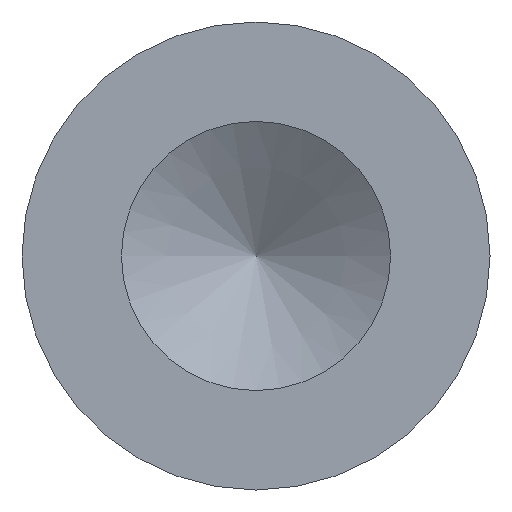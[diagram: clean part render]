
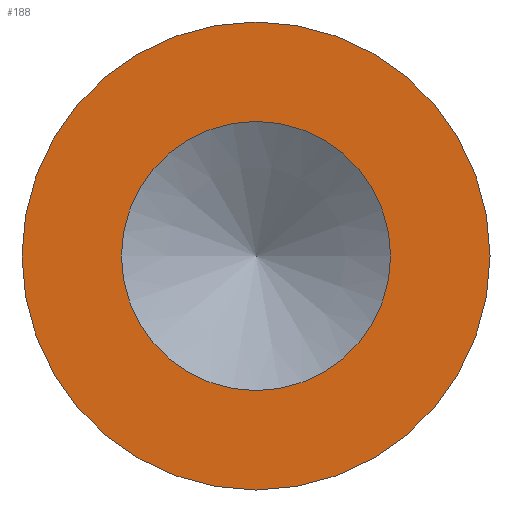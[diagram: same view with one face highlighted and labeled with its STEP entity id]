
A CAD part, front view. The second image highlights one B-rep face of the part: STEP entity #188.
In plain terms, the highlighted planar face has unit normal (0, -1, 0).
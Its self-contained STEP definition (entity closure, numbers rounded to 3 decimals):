
#15=FACE_BOUND('',#41,.T.);
#17=PLANE('',#235);
#30=FACE_OUTER_BOUND('',#40,.T.);
#40=EDGE_LOOP('',(#165));
#41=EDGE_LOOP('',(#166,#167));
#69=CIRCLE('',#222,2.);
#76=CIRCLE('',#233,1.15);
#77=CIRCLE('',#234,1.15);
#87=VERTEX_POINT('',#327);
#96=VERTEX_POINT('',#351);
#97=VERTEX_POINT('',#352);
#110=EDGE_CURVE('',#87,#87,#69,.T.);
#120=EDGE_CURVE('',#96,#97,#76,.T.);
#121=EDGE_CURVE('',#97,#96,#77,.T.);
#165=ORIENTED_EDGE('',*,*,#110,.T.);
#166=ORIENTED_EDGE('',*,*,#120,.T.);
#167=ORIENTED_EDGE('',*,*,#121,.T.);
#188=ADVANCED_FACE('',(#30,#15),#17,.F.);
#222=AXIS2_PLACEMENT_3D('',#329,#266,#267);
#233=AXIS2_PLACEMENT_3D('',#353,#291,#292);
#234=AXIS2_PLACEMENT_3D('',#354,#293,#294);
#235=AXIS2_PLACEMENT_3D('',#356,#296,#297);
#266=DIRECTION('center_axis',(0.,-1.,0.));
#267=DIRECTION('ref_axis',(1.,0.,0.));
#291=DIRECTION('center_axis',(0.,1.,0.));
#292=DIRECTION('ref_axis',(1.,0.,0.));
#293=DIRECTION('center_axis',(0.,1.,0.));
#294=DIRECTION('ref_axis',(1.,0.,0.));
#296=DIRECTION('center_axis',(0.,1.,0.));
#297=DIRECTION('ref_axis',(0.,0.,1.));
#327=CARTESIAN_POINT('',(-2.,-101.6,0.));
#329=CARTESIAN_POINT('Origin',(0.,-101.6,0.));
#351=CARTESIAN_POINT('',(1.15,-101.6,0.));
#352=CARTESIAN_POINT('',(-1.15,-101.6,0.));
#353=CARTESIAN_POINT('Origin',(0.,-101.6,0.));
#354=CARTESIAN_POINT('Origin',(0.,-101.6,0.));
#356=CARTESIAN_POINT('Origin',(0.,-101.6,0.));
